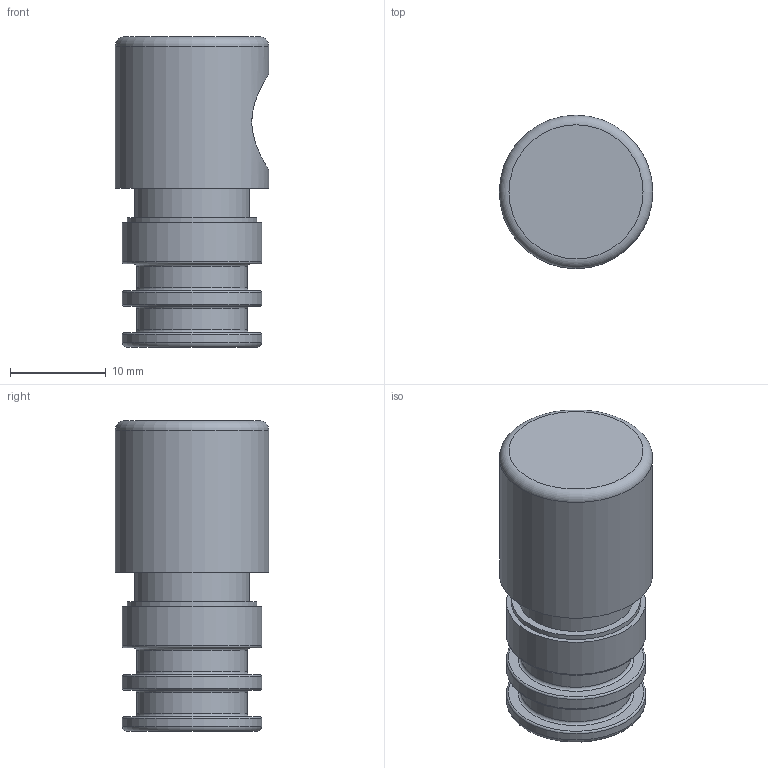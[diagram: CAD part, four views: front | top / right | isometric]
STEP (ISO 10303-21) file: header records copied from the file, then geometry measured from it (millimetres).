
FILE_DESCRIPTION(/* description */ (''),/* implementation_level */ '2;1');
FILE_NAME(/* name */ 'ET039857.stp',/* time_stamp */ '2024-08-28T12:08:44+02:00',/* author */ (''),/* organization */ (''),/* preprocessor_version */ 'ST-DEVELOPER v15',/* originating_system */ 'SIEMENS PLM Software NX 9.0',/* authorisation */ '');
FILE_SCHEMA (('AP203_CONFIGURATION_CONTROLLED_3D_DESIGN_OF_MECHANICAL_PARTS_AND_ASSEMBLIES_MIM_LF { 1 0 10303 403 2 1 2}'));
Length unit declared in the file: millimetre
Products named in the file (1): Chri1AAC3AA3x258
Bounding box: 16 x 16 x 32.4 mm (x, y, z)
Volume: 3583.6 mm3; surface area: 2855 mm2
Topology: 1 solids, 1 shells, 34 faces, 67 edges, 41 vertices
Faces by surface type: plane 11, cylinder 11, torus 11, cone 1
Full cylindrical faces by diameter (mm): 8 x1, 10 x1, 11.54 x2, 12 x1, 13.54 x1, 14.54 x3, 16 x1
Entity records: 1068 total; most frequent: CARTESIAN_POINT 149, DIRECTION 132, ORIENTED_EDGE 76, AXIS2_PLACEMENT_3D 65, EDGE_LOOP 63, FACE_BOUND 61, EDGE_CURVE 38, VERTEX_POINT 36
